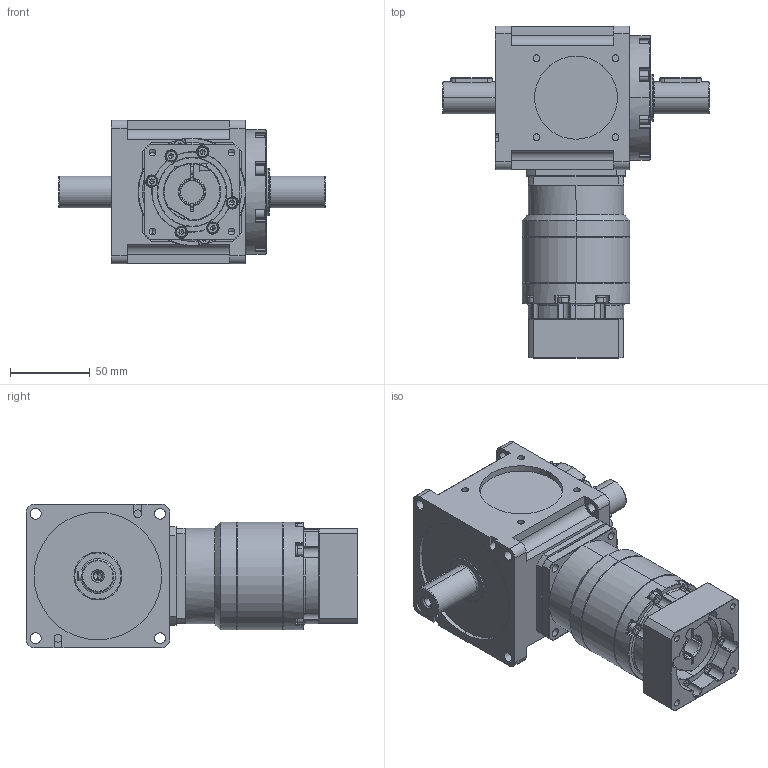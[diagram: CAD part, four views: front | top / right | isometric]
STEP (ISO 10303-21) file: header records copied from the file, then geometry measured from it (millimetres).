
FILE_DESCRIPTION (( 'STEP AP214' ), '1' );
FILE_NAME ('CCW090A-L2(24-200)-2P 14-50-70-M5.STEP', '2025-06-03T02:57:40', ( '微软用户' ), ( '微软中国' ), 'SwSTEP 2.0', 'SolidWorks 2024', '' );
FILE_SCHEMA (( 'AUTOMOTIVE_DESIGN' ));
Length unit declared in the file: millimetre
Products named in the file (3): VRB-060-L2-S2-P1 14-50-70-M5; CCW090A-002-2P箱体; CCW090A-L2(24-200)-2P 14-50-70-M5
Assembly tree (2 placements, depth 2):
  CCW090A-L2(24-200)-2P 14-50-70-M5
    CCW090A-002-2P箱体
    VRB-060-L2-S2-P1 14-50-70-M5
Bounding box: 167 x 208 x 90 mm (x, y, z)
Volume: 966220.5 mm3; surface area: 147838.1 mm2
Topology: 34 solids, 34 shells, 1493 faces, 3647 edges, 2267 vertices
Faces by surface type: plane 572, cylinder 566, cone 232, torus 91, sphere 20, bspline 12
Entity records: 44885 total; most frequent: CARTESIAN_POINT 8809, DIRECTION 7968, ORIENTED_EDGE 7138, EDGE_CURVE 3569, AXIS2_PLACEMENT_3D 3147, VERTEX_POINT 2259, VECTOR 1674, LINE 1674
